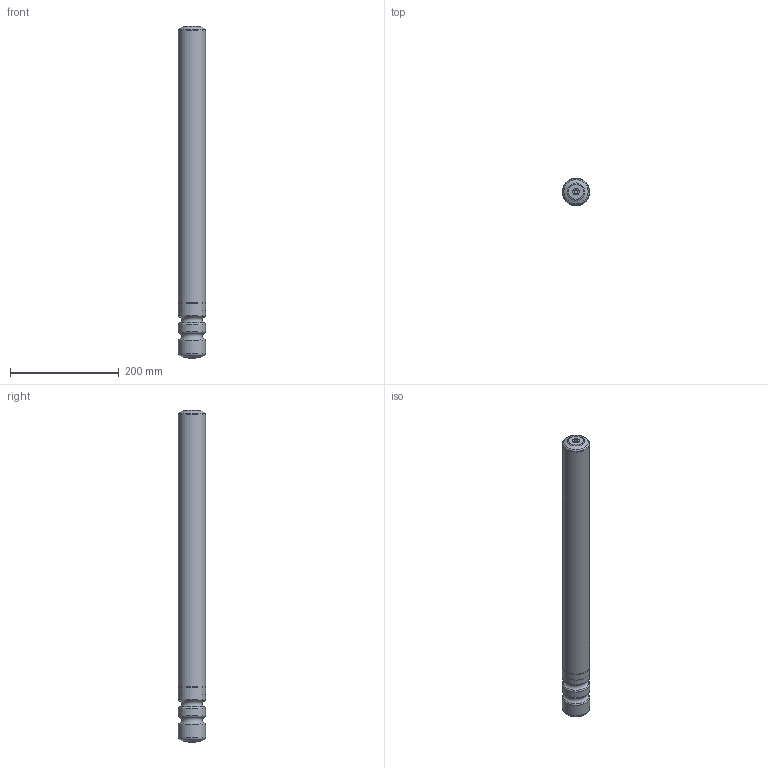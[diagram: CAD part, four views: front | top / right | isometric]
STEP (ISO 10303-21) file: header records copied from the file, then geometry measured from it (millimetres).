
FILE_DESCRIPTION(/* description */ ('Roller 2xgroove Ø50z1,5 galvanized'),/* implementation_level */ '2;1');
FILE_NAME(/* name */ 'RO9200500410-01.stp',/* time_stamp */ '2024-02-08T07:59:31+01:00',/* author */ ('r.biemans'),/* organization */ ('BCK Holland b.v.'),/* preprocessor_version */ 'ST-DEVELOPER v19.2',/* originating_system */ 'Autodesk Inventor 2023',/* authorisation */ '');
FILE_SCHEMA (('AUTOMOTIVE_DESIGN { 1 0 10303 214 3 1 1 }'));
Length unit declared in the file: millimetre
Products named in the file (1): RO9200500610
Bounding box: 50 x 50 x 610 mm (x, y, z)
Volume: 199961.4 mm3; surface area: 182361.3 mm2
Topology: 1 solids, 1 shells, 31 faces, 61 edges, 38 vertices
Faces by surface type: cylinder 10, torus 10, plane 8, cone 3
Full cylindrical faces by diameter (mm): 6.647 x2, 12 x2, 49 x1, 49.5 x1, 50 x4
Entity records: 903 total; most frequent: DIRECTION 171, CARTESIAN_POINT 130, ORIENTED_EDGE 120, AXIS2_PLACEMENT_3D 79, EDGE_CURVE 60, CIRCLE 47, EDGE_LOOP 38, VERTEX_POINT 38
